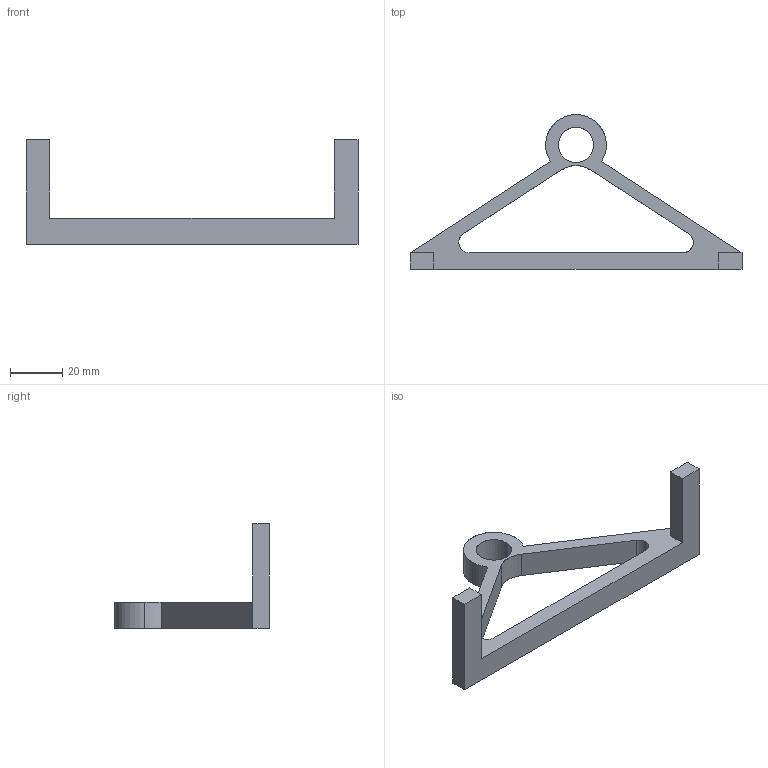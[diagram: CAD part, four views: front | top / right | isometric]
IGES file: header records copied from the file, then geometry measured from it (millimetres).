
Start section: SolidWorks IGES file using analytic representation for surfaces
Global section: file name: C:\Documents and Settings\Pc\Escritorio\Modelos 3D\Capítulo 5 (Estudio diseño)\OTROS\Practica 2.IGS; native system: SolidWorks 2010; preprocessor: SolidWorks 2010; author: Pc; date: 100623.114225; units: millimetre
Bounding box: 127 x 59.23 x 40 mm (x, y, z)
Surface area: 10956.6 mm2 (no closed solid volume)
Topology: 0 solids, 0 shells, 25 faces, 300 edges, 300 vertices
Faces by surface type: bspline 16, revolution 9
